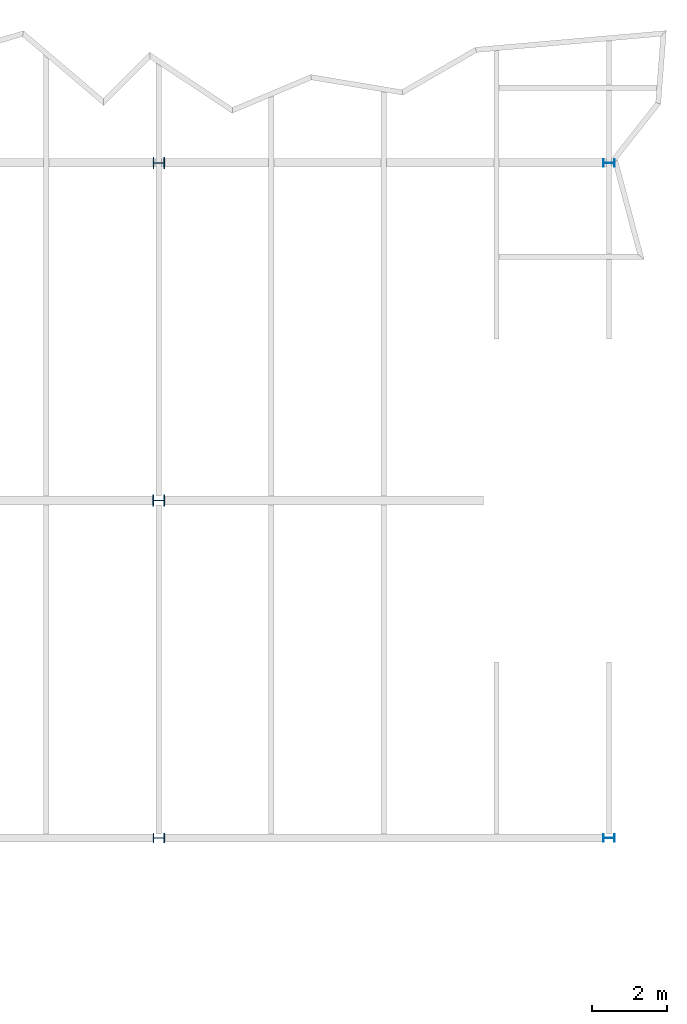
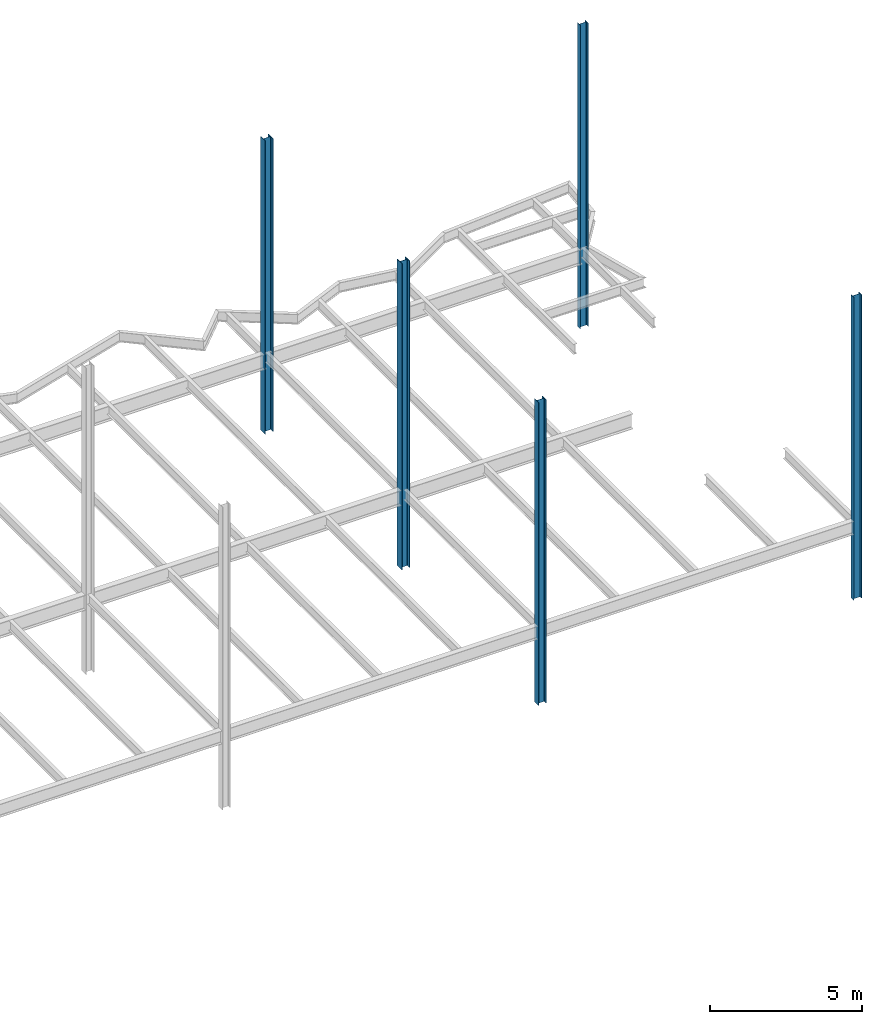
# One storey, part 4 of 26: 5 columns.
"""IFC2X3 building model written with IfcOpenShell, lengths in millimetres."""

from ifc_helpers import new_model, si_unit, origin, place, context, project, spatial, faceted_brep, material, element, save


model = new_model("IFC2X3")

# Units and contexts
context_of_model = context(None, 3, precision=1e-05, world=origin())
ifc_project = project(units=[si_unit("LENGTHUNIT", "METRE", prefix="MILLI")], contexts=[context_of_model])

# Building, storey
building = spatial("IfcBuilding", under=ifc_project, Name="Building", CompositionType="ELEMENT")
storey = spatial("IfcBuildingStorey", under=building, Name="FL4-FRM", CompositionType="ELEMENT")

# Columns
ifc_material_1 = material(Name="A992")
column_1_placement = place(None, origin())
element("IfcColumn", 1, at=column_1_placement, inside=storey, material=ifc_material_1, Name="Column323", context=context_of_model, shape_type="Brep", body=[
    faceted_brep([(72154.0, 26847.5, 10194.2), (72154.0, 27152.5, 10194.2), (72154.0, 27152.5, 21970.0), (72154.0, 26847.5, 21970.0), (72138.6, 27152.5, 10194.2), (72138.6, 27152.5, 21970.0), (72138.6, 27020.1, 10194.2), (72138.6, 27020.1, 21970.0), (72138.1, 27016.2, 10194.2), (72138.1, 27016.2, 21970.0), (72136.6, 27012.5, 10194.2), (72136.6, 27012.5, 21970.0), (72134.1, 27009.4, 10194.2), (72134.1, 27009.4, 21970.0), (72131.0, 27007.0, 10194.2), (72131.0, 27007.0, 21970.0), (72127.3, 27005.5, 10194.2), (72127.3, 27005.5, 21970.0), (72123.4, 27004.9, 10194.2), (72123.4, 27004.9, 21970.0), (71876.6, 27004.9, 10194.2), (71876.6, 27004.9, 21970.0), (71872.7, 27005.5, 10194.2), (71872.7, 27005.5, 21970.0), (71869.0, 27007.0, 10194.2), (71869.0, 27007.0, 21970.0), (71865.9, 27009.4, 10194.2), (71865.9, 27009.4, 21970.0), (71863.4, 27012.5, 10194.2), (71863.4, 27012.5, 21970.0), (71861.9, 27016.2, 10194.2), (71861.9, 27016.2, 21970.0), (71861.4, 27020.1, 10194.2), (71861.4, 27020.1, 21970.0), (71861.4, 27152.5, 10194.2), (71861.4, 27152.5, 21970.0), (71846.0, 27152.5, 10194.2), (71846.0, 27152.5, 21970.0), (71846.0, 26847.5, 10194.2), (71846.0, 26847.5, 21970.0), (71861.4, 26847.5, 10194.2), (71861.4, 26847.5, 21970.0), (71861.4, 26979.9, 10194.2), (71861.4, 26979.9, 21970.0), (71861.9, 26983.8, 10194.2), (71861.9, 26983.8, 21970.0), (71863.4, 26987.5, 10194.2), (71863.4, 26987.5, 21970.0), (71865.9, 26990.6, 10194.2), (71865.9, 26990.6, 21970.0), (71869.0, 26993.0, 10194.2), (71869.0, 26993.0, 21970.0), (71872.7, 26994.5, 10194.2), (71872.7, 26994.5, 21970.0), (71876.6, 26995.1, 10194.2), (71876.6, 26995.1, 21970.0), (72123.4, 26995.1, 10194.2), (72123.4, 26995.1, 21970.0), (72127.3, 26994.5, 10194.2), (72127.3, 26994.5, 21970.0), (72131.0, 26993.0, 10194.2), (72131.0, 26993.0, 21970.0), (72134.1, 26990.6, 10194.2), (72134.1, 26990.6, 21970.0), (72136.6, 26987.5, 10194.2), (72136.6, 26987.5, 21970.0), (72138.1, 26983.8, 10194.2), (72138.1, 26983.8, 21970.0), (72138.6, 26979.9, 10194.2), (72138.6, 26979.9, 21970.0), (72138.6, 26847.5, 10194.2), (72138.6, 26847.5, 21970.0)], [[[0, 1, 2, 3]], [[1, 4, 5, 2]], [[4, 6, 7, 5]], [[6, 8, 9, 7]], [[8, 10, 11, 9]], [[10, 12, 13, 11]], [[12, 14, 15, 13]], [[14, 16, 17, 15]], [[16, 18, 19, 17]], [[18, 20, 21, 19]], [[20, 22, 23, 21]], [[22, 24, 25, 23]], [[24, 26, 27, 25]], [[26, 28, 29, 27]], [[28, 30, 31, 29]], [[30, 32, 33, 31]], [[32, 34, 35, 33]], [[34, 36, 37, 35]], [[36, 38, 39, 37]], [[38, 40, 41, 39]], [[40, 42, 43, 41]], [[42, 44, 45, 43]], [[44, 46, 47, 45]], [[46, 48, 49, 47]], [[48, 50, 51, 49]], [[50, 52, 53, 51]], [[52, 54, 55, 53]], [[54, 56, 57, 55]], [[56, 58, 59, 57]], [[58, 60, 61, 59]], [[60, 62, 63, 61]], [[62, 64, 65, 63]], [[64, 66, 67, 65]], [[66, 68, 69, 67]], [[68, 70, 71, 69]], [[70, 0, 3, 71]], [[0, 70, 68, 66, 64, 62, 60, 58, 56, 54, 52, 50, 48, 46, 44, 42, 40, 38, 36, 34, 32, 30, 28, 26, 24, 22, 20, 18, 16, 14, 12, 10, 8, 6, 4, 1]], [[3, 2, 5, 7, 9, 11, 13, 15, 17, 19, 21, 23, 25, 27, 29, 31, 33, 35, 37, 39, 41, 43, 45, 47, 49, 51, 53, 55, 57, 59, 61, 63, 65, 67, 69, 71]]]),
])
ifc_material_2 = material(Name="A992")
column_2_placement = place(None, origin())
element("IfcColumn", 2, at=column_2_placement, inside=storey, material=ifc_material_2, Name="Column325", context=context_of_model, shape_type="Brep", body=[
    faceted_brep([(72157.0, 17846.5, 10194.2), (72157.0, 18153.5, 10194.2), (72157.0, 18153.5, 22500.0), (72157.0, 17846.5, 22500.0), (72138.3, 18153.5, 10194.2), (72138.3, 18153.5, 22500.0), (72138.3, 18021.1, 10194.2), (72138.3, 18021.1, 22500.0), (72137.8, 18017.2, 10194.2), (72137.8, 18017.2, 22500.0), (72136.3, 18013.5, 10194.2), (72136.3, 18013.5, 22500.0), (72133.8, 18010.4, 10194.2), (72133.8, 18010.4, 22500.0), (72130.7, 18008.0, 10194.2), (72130.7, 18008.0, 22500.0), (72127.0, 18006.5, 10194.2), (72127.0, 18006.5, 22500.0), (72123.1, 18005.9, 10194.2), (72123.1, 18005.9, 22500.0), (71876.9, 18005.9, 10194.2), (71876.9, 18005.9, 22500.0), (71873.0, 18006.5, 10194.2), (71873.0, 18006.5, 22500.0), (71869.3, 18008.0, 10194.2), (71869.3, 18008.0, 22500.0), (71866.2, 18010.4, 10194.2), (71866.2, 18010.4, 22500.0), (71863.7, 18013.5, 10194.2), (71863.7, 18013.5, 22500.0), (71862.2, 18017.2, 10194.2), (71862.2, 18017.2, 22500.0), (71861.7, 18021.1, 10194.2), (71861.7, 18021.1, 22500.0), (71861.7, 18153.5, 10194.2), (71861.7, 18153.5, 22500.0), (71843.0, 18153.5, 10194.2), (71843.0, 18153.5, 22500.0), (71843.0, 17846.5, 10194.2), (71843.0, 17846.5, 22500.0), (71861.7, 17846.5, 10194.2), (71861.7, 17846.5, 22500.0), (71861.7, 17978.9, 10194.2), (71861.7, 17978.9, 22500.0), (71862.2, 17982.8, 10194.2), (71862.2, 17982.8, 22500.0), (71863.7, 17986.5, 10194.2), (71863.7, 17986.5, 22500.0), (71866.2, 17989.6, 10194.2), (71866.2, 17989.6, 22500.0), (71869.3, 17992.0, 10194.2), (71869.3, 17992.0, 22500.0), (71873.0, 17993.5, 10194.2), (71873.0, 17993.5, 22500.0), (71876.9, 17994.1, 10194.2), (71876.9, 17994.1, 22500.0), (72123.1, 17994.1, 10194.2), (72123.1, 17994.1, 22500.0), (72127.0, 17993.5, 10194.2), (72127.0, 17993.5, 22500.0), (72130.7, 17992.0, 10194.2), (72130.7, 17992.0, 22500.0), (72133.8, 17989.6, 10194.2), (72133.8, 17989.6, 22500.0), (72136.3, 17986.5, 10194.2), (72136.3, 17986.5, 22500.0), (72137.8, 17982.8, 10194.2), (72137.8, 17982.8, 22500.0), (72138.3, 17978.9, 10194.2), (72138.3, 17978.9, 22500.0), (72138.3, 17846.5, 10194.2), (72138.3, 17846.5, 22500.0)], [[[0, 1, 2, 3]], [[1, 4, 5, 2]], [[4, 6, 7, 5]], [[6, 8, 9, 7]], [[8, 10, 11, 9]], [[10, 12, 13, 11]], [[12, 14, 15, 13]], [[14, 16, 17, 15]], [[16, 18, 19, 17]], [[18, 20, 21, 19]], [[20, 22, 23, 21]], [[22, 24, 25, 23]], [[24, 26, 27, 25]], [[26, 28, 29, 27]], [[28, 30, 31, 29]], [[30, 32, 33, 31]], [[32, 34, 35, 33]], [[34, 36, 37, 35]], [[36, 38, 39, 37]], [[38, 40, 41, 39]], [[40, 42, 43, 41]], [[42, 44, 45, 43]], [[44, 46, 47, 45]], [[46, 48, 49, 47]], [[48, 50, 51, 49]], [[50, 52, 53, 51]], [[52, 54, 55, 53]], [[54, 56, 57, 55]], [[56, 58, 59, 57]], [[58, 60, 61, 59]], [[60, 62, 63, 61]], [[62, 64, 65, 63]], [[64, 66, 67, 65]], [[66, 68, 69, 67]], [[68, 70, 71, 69]], [[70, 0, 3, 71]], [[0, 70, 68, 66, 64, 62, 60, 58, 56, 54, 52, 50, 48, 46, 44, 42, 40, 38, 36, 34, 32, 30, 28, 26, 24, 22, 20, 18, 16, 14, 12, 10, 8, 6, 4, 1]], [[3, 2, 5, 7, 9, 11, 13, 15, 17, 19, 21, 23, 25, 27, 29, 31, 33, 35, 37, 39, 41, 43, 45, 47, 49, 51, 53, 55, 57, 59, 61, 63, 65, 67, 69, 71]]]),
])
ifc_material_3 = material(Name="A992")
column_3_placement = place(None, origin())
element("IfcColumn", 3, at=column_3_placement, inside=storey, material=ifc_material_3, Name="Column327", context=context_of_model, shape_type="Brep", body=[
    faceted_brep([(72153.0, 8873.0, 10194.2), (72153.0, 9127.0, 10194.2), (72153.0, 9127.0, 22373.0), (72153.0, 8873.0, 22373.0), (72138.4, 9127.0, 10194.2), (72138.4, 9127.0, 22373.0), (72138.4, 9019.6, 10194.2), (72138.4, 9019.6, 22373.0), (72137.9, 9015.67, 10194.2), (72137.9, 9015.67, 22373.0), (72136.4, 9012.0, 10194.2), (72136.4, 9012.0, 22373.0), (72133.9, 9008.85, 10194.2), (72133.9, 9008.85, 22373.0), (72130.8, 9006.44, 10194.2), (72130.8, 9006.44, 22373.0), (72127.1, 9004.92, 10194.2), (72127.1, 9004.92, 22373.0), (72123.2, 9004.4, 10194.2), (72123.2, 9004.4, 22373.0), (71876.8, 9004.4, 10194.2), (71876.8, 9004.4, 22373.0), (71872.9, 9004.92, 10194.2), (71872.9, 9004.92, 22373.0), (71869.2, 9006.44, 10194.2), (71869.2, 9006.44, 22373.0), (71866.1, 9008.85, 10194.2), (71866.1, 9008.85, 22373.0), (71863.6, 9012.0, 10194.2), (71863.6, 9012.0, 22373.0), (71862.1, 9015.67, 10194.2), (71862.1, 9015.67, 22373.0), (71861.6, 9019.6, 10194.2), (71861.6, 9019.6, 22373.0), (71861.6, 9127.0, 10194.2), (71861.6, 9127.0, 22373.0), (71847.0, 9127.0, 10194.2), (71847.0, 9127.0, 22373.0), (71847.0, 8873.0, 10194.2), (71847.0, 8873.0, 22373.0), (71861.6, 8873.0, 10194.2), (71861.6, 8873.0, 22373.0), (71861.6, 8980.4, 10194.2), (71861.6, 8980.4, 22373.0), (71862.1, 8984.33, 10194.2), (71862.1, 8984.33, 22373.0), (71863.6, 8988.0, 10194.2), (71863.6, 8988.0, 22373.0), (71866.1, 8991.15, 10194.2), (71866.1, 8991.15, 22373.0), (71869.2, 8993.56, 10194.2), (71869.2, 8993.56, 22373.0), (71872.9, 8995.08, 10194.2), (71872.9, 8995.08, 22373.0), (71876.8, 8995.6, 10194.2), (71876.8, 8995.6, 22373.0), (72123.2, 8995.6, 10194.2), (72123.2, 8995.6, 22373.0), (72127.1, 8995.08, 10194.2), (72127.1, 8995.08, 22373.0), (72130.8, 8993.56, 10194.2), (72130.8, 8993.56, 22373.0), (72133.9, 8991.15, 10194.2), (72133.9, 8991.15, 22373.0), (72136.4, 8988.0, 10194.2), (72136.4, 8988.0, 22373.0), (72137.9, 8984.33, 10194.2), (72137.9, 8984.33, 22373.0), (72138.4, 8980.4, 10194.2), (72138.4, 8980.4, 22373.0), (72138.4, 8873.0, 10194.2), (72138.4, 8873.0, 22373.0)], [[[0, 1, 2, 3]], [[1, 4, 5, 2]], [[4, 6, 7, 5]], [[6, 8, 9, 7]], [[8, 10, 11, 9]], [[10, 12, 13, 11]], [[12, 14, 15, 13]], [[14, 16, 17, 15]], [[16, 18, 19, 17]], [[18, 20, 21, 19]], [[20, 22, 23, 21]], [[22, 24, 25, 23]], [[24, 26, 27, 25]], [[26, 28, 29, 27]], [[28, 30, 31, 29]], [[30, 32, 33, 31]], [[32, 34, 35, 33]], [[34, 36, 37, 35]], [[36, 38, 39, 37]], [[38, 40, 41, 39]], [[40, 42, 43, 41]], [[42, 44, 45, 43]], [[44, 46, 47, 45]], [[46, 48, 49, 47]], [[48, 50, 51, 49]], [[50, 52, 53, 51]], [[52, 54, 55, 53]], [[54, 56, 57, 55]], [[56, 58, 59, 57]], [[58, 60, 61, 59]], [[60, 62, 63, 61]], [[62, 64, 65, 63]], [[64, 66, 67, 65]], [[66, 68, 69, 67]], [[68, 70, 71, 69]], [[70, 0, 3, 71]], [[0, 70, 68, 66, 64, 62, 60, 58, 56, 54, 52, 50, 48, 46, 44, 42, 40, 38, 36, 34, 32, 30, 28, 26, 24, 22, 20, 18, 16, 14, 12, 10, 8, 6, 4, 1]], [[3, 2, 5, 7, 9, 11, 13, 15, 17, 19, 21, 23, 25, 27, 29, 31, 33, 35, 37, 39, 41, 43, 45, 47, 49, 51, 53, 55, 57, 59, 61, 63, 65, 67, 69, 71]]]),
])
ifc_material_4 = material(Name="A992")
column_4_placement = place(None, origin())
element("IfcColumn", 4, at=column_4_placement, inside=storey, material=ifc_material_4, Name="Column331", context=context_of_model, shape_type="Brep", body=[
    faceted_brep([(84151.5, 8898.5, 10194.2), (84151.5, 9101.5, 10194.2), (84151.5, 9101.5, 22373.0), (84151.5, 8898.5, 22373.0), (84138.4, 9101.5, 10194.2), (84138.4, 9101.5, 22373.0), (84138.4, 9016.45, 10194.2), (84138.4, 9016.45, 22373.0), (84138.0, 9013.16, 10194.2), (84138.0, 9013.16, 22373.0), (84136.7, 9010.1, 10194.2), (84136.7, 9010.1, 22373.0), (84134.7, 9007.47, 10194.2), (84134.7, 9007.47, 22373.0), (84132.0, 9005.45, 10194.2), (84132.0, 9005.45, 22373.0), (84129.0, 9004.18, 10194.2), (84129.0, 9004.18, 22373.0), (84125.7, 9003.75, 10194.2), (84125.7, 9003.75, 22373.0), (83874.3, 9003.75, 10194.2), (83874.3, 9003.75, 22373.0), (83871.0, 9004.18, 10194.2), (83871.0, 9004.18, 22373.0), (83868.0, 9005.45, 10194.2), (83868.0, 9005.45, 22373.0), (83865.3, 9007.47, 10194.2), (83865.3, 9007.47, 22373.0), (83863.3, 9010.1, 10194.2), (83863.3, 9010.1, 22373.0), (83862.0, 9013.16, 10194.2), (83862.0, 9013.16, 22373.0), (83861.6, 9016.45, 10194.2), (83861.6, 9016.45, 22373.0), (83861.6, 9101.5, 10194.2), (83861.6, 9101.5, 22373.0), (83848.5, 9101.5, 10194.2), (83848.5, 9101.5, 22373.0), (83848.5, 8898.5, 10194.2), (83848.5, 8898.5, 22373.0), (83861.6, 8898.5, 10194.2), (83861.6, 8898.5, 22373.0), (83861.6, 8983.55, 10194.2), (83861.6, 8983.55, 22373.0), (83862.0, 8986.84, 10194.2), (83862.0, 8986.84, 22373.0), (83863.3, 8989.9, 10194.2), (83863.3, 8989.9, 22373.0), (83865.3, 8992.53, 10194.2), (83865.3, 8992.53, 22373.0), (83868.0, 8994.55, 10194.2), (83868.0, 8994.55, 22373.0), (83871.0, 8995.82, 10194.2), (83871.0, 8995.82, 22373.0), (83874.3, 8996.25, 10194.2), (83874.3, 8996.25, 22373.0), (84125.7, 8996.25, 10194.2), (84125.7, 8996.25, 22373.0), (84129.0, 8995.82, 10194.2), (84129.0, 8995.82, 22373.0), (84132.0, 8994.55, 10194.2), (84132.0, 8994.55, 22373.0), (84134.7, 8992.53, 10194.2), (84134.7, 8992.53, 22373.0), (84136.7, 8989.9, 10194.2), (84136.7, 8989.9, 22373.0), (84138.0, 8986.84, 10194.2), (84138.0, 8986.84, 22373.0), (84138.4, 8983.55, 10194.2), (84138.4, 8983.55, 22373.0), (84138.4, 8898.5, 10194.2), (84138.4, 8898.5, 22373.0)], [[[0, 1, 2, 3]], [[1, 4, 5, 2]], [[4, 6, 7, 5]], [[6, 8, 9, 7]], [[8, 10, 11, 9]], [[10, 12, 13, 11]], [[12, 14, 15, 13]], [[14, 16, 17, 15]], [[16, 18, 19, 17]], [[18, 20, 21, 19]], [[20, 22, 23, 21]], [[22, 24, 25, 23]], [[24, 26, 27, 25]], [[26, 28, 29, 27]], [[28, 30, 31, 29]], [[30, 32, 33, 31]], [[32, 34, 35, 33]], [[34, 36, 37, 35]], [[36, 38, 39, 37]], [[38, 40, 41, 39]], [[40, 42, 43, 41]], [[42, 44, 45, 43]], [[44, 46, 47, 45]], [[46, 48, 49, 47]], [[48, 50, 51, 49]], [[50, 52, 53, 51]], [[52, 54, 55, 53]], [[54, 56, 57, 55]], [[56, 58, 59, 57]], [[58, 60, 61, 59]], [[60, 62, 63, 61]], [[62, 64, 65, 63]], [[64, 66, 67, 65]], [[66, 68, 69, 67]], [[68, 70, 71, 69]], [[70, 0, 3, 71]], [[0, 70, 68, 66, 64, 62, 60, 58, 56, 54, 52, 50, 48, 46, 44, 42, 40, 38, 36, 34, 32, 30, 28, 26, 24, 22, 20, 18, 16, 14, 12, 10, 8, 6, 4, 1]], [[3, 2, 5, 7, 9, 11, 13, 15, 17, 19, 21, 23, 25, 27, 29, 31, 33, 35, 37, 39, 41, 43, 45, 47, 49, 51, 53, 55, 57, 59, 61, 63, 65, 67, 69, 71]]]),
])
ifc_material_5 = material(Name="A992")
column_5_placement = place(None, origin())
element("IfcColumn", 5, at=column_5_placement, inside=storey, material=ifc_material_5, Name="Column657", context=context_of_model, shape_type="Brep", body=[
    faceted_brep([(84151.5, 26898.5, 10194.2), (84151.5, 27101.5, 10194.2), (84151.5, 27101.5, 22373.0), (84151.5, 26898.5, 22373.0), (84138.4, 27101.5, 10194.2), (84138.4, 27101.5, 22373.0), (84138.4, 27016.4, 10194.2), (84138.4, 27016.4, 22373.0), (84138.0, 27013.2, 10194.2), (84138.0, 27013.2, 22373.0), (84136.7, 27010.1, 10194.2), (84136.7, 27010.1, 22373.0), (84134.7, 27007.5, 10194.2), (84134.7, 27007.5, 22373.0), (84132.0, 27005.5, 10194.2), (84132.0, 27005.5, 22373.0), (84129.0, 27004.2, 10194.2), (84129.0, 27004.2, 22373.0), (84125.7, 27003.7, 10194.2), (84125.7, 27003.7, 22373.0), (83874.3, 27003.7, 10194.2), (83874.3, 27003.7, 22373.0), (83871.0, 27004.2, 10194.2), (83871.0, 27004.2, 22373.0), (83868.0, 27005.5, 10194.2), (83868.0, 27005.5, 22373.0), (83865.3, 27007.5, 10194.2), (83865.3, 27007.5, 22373.0), (83863.3, 27010.1, 10194.2), (83863.3, 27010.1, 22373.0), (83862.0, 27013.2, 10194.2), (83862.0, 27013.2, 22373.0), (83861.6, 27016.4, 10194.2), (83861.6, 27016.4, 22373.0), (83861.6, 27101.5, 10194.2), (83861.6, 27101.5, 22373.0), (83848.5, 27101.5, 10194.2), (83848.5, 27101.5, 22373.0), (83848.5, 26898.5, 10194.2), (83848.5, 26898.5, 22373.0), (83861.6, 26898.5, 10194.2), (83861.6, 26898.5, 22373.0), (83861.6, 26983.6, 10194.2), (83861.6, 26983.6, 22373.0), (83862.0, 26986.8, 10194.2), (83862.0, 26986.8, 22373.0), (83863.3, 26989.9, 10194.2), (83863.3, 26989.9, 22373.0), (83865.3, 26992.5, 10194.2), (83865.3, 26992.5, 22373.0), (83868.0, 26994.5, 10194.2), (83868.0, 26994.5, 22373.0), (83871.0, 26995.8, 10194.2), (83871.0, 26995.8, 22373.0), (83874.3, 26996.2, 10194.2), (83874.3, 26996.2, 22373.0), (84125.7, 26996.2, 10194.2), (84125.7, 26996.2, 22373.0), (84129.0, 26995.8, 10194.2), (84129.0, 26995.8, 22373.0), (84132.0, 26994.5, 10194.2), (84132.0, 26994.5, 22373.0), (84134.7, 26992.5, 10194.2), (84134.7, 26992.5, 22373.0), (84136.7, 26989.9, 10194.2), (84136.7, 26989.9, 22373.0), (84138.0, 26986.8, 10194.2), (84138.0, 26986.8, 22373.0), (84138.4, 26983.6, 10194.2), (84138.4, 26983.6, 22373.0), (84138.4, 26898.5, 10194.2), (84138.4, 26898.5, 22373.0)], [[[0, 1, 2, 3]], [[1, 4, 5, 2]], [[4, 6, 7, 5]], [[6, 8, 9, 7]], [[8, 10, 11, 9]], [[10, 12, 13, 11]], [[12, 14, 15, 13]], [[14, 16, 17, 15]], [[16, 18, 19, 17]], [[18, 20, 21, 19]], [[20, 22, 23, 21]], [[22, 24, 25, 23]], [[24, 26, 27, 25]], [[26, 28, 29, 27]], [[28, 30, 31, 29]], [[30, 32, 33, 31]], [[32, 34, 35, 33]], [[34, 36, 37, 35]], [[36, 38, 39, 37]], [[38, 40, 41, 39]], [[40, 42, 43, 41]], [[42, 44, 45, 43]], [[44, 46, 47, 45]], [[46, 48, 49, 47]], [[48, 50, 51, 49]], [[50, 52, 53, 51]], [[52, 54, 55, 53]], [[54, 56, 57, 55]], [[56, 58, 59, 57]], [[58, 60, 61, 59]], [[60, 62, 63, 61]], [[62, 64, 65, 63]], [[64, 66, 67, 65]], [[66, 68, 69, 67]], [[68, 70, 71, 69]], [[70, 0, 3, 71]], [[0, 70, 68, 66, 64, 62, 60, 58, 56, 54, 52, 50, 48, 46, 44, 42, 40, 38, 36, 34, 32, 30, 28, 26, 24, 22, 20, 18, 16, 14, 12, 10, 8, 6, 4, 1]], [[3, 2, 5, 7, 9, 11, 13, 15, 17, 19, 21, 23, 25, 27, 29, 31, 33, 35, 37, 39, 41, 43, 45, 47, 49, 51, 53, 55, 57, 59, 61, 63, 65, 67, 69, 71]]]),
])

save(model, "model.ifc")
